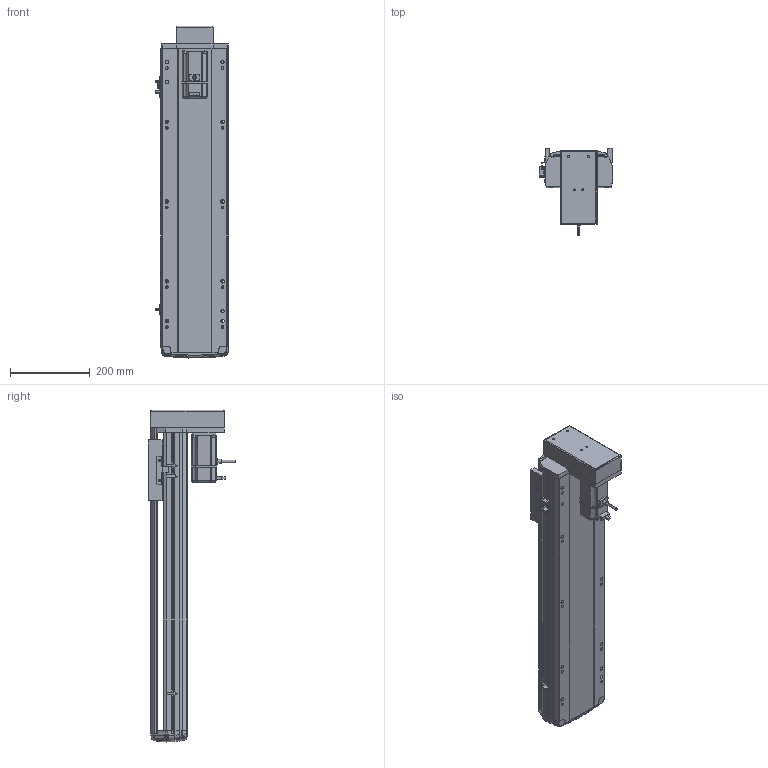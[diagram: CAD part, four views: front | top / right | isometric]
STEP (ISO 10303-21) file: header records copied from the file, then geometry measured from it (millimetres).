
FILE_DESCRIPTION (( 'STEP AP214' ), '1' );
FILE_NAME ('RTH17-XX-550-M-M40-C4.STEP', '2025-10-24T09:05:48', ( '' ), ( '' ), 'SwSTEP 2.0', 'SolidWorks 2018', '' );
FILE_SCHEMA (( 'AUTOMOTIVE_DESIGN' ));
Length unit declared in the file: millimetre
Products named in the file (10): N_RTH17-M-011底座^RTH17-XX-XX-M-M40-C4（方程式）; N_RTH17-GY-001P^RTH17-XX-XX-M-M40-C4（方程式）; N_RTH-BL-012 感应片(外置)^RTH17-XX-XX-M-M40-C4（方程式）; N_OMRON EE-SX672 換覜ん^RTH17-XX-XX-M-M40-C4ㄗ源最宒ㄘ; N_RTH17-E-004丝杆螺母连接座^RTH17-XX-XX-M-M40-C4（方程式）; RTH17-XX-550-M-M40-C4; N_RTH17-M-018盖子^RTH17-XX-XX-M-M40-C4（方程式）; N_RTH17-M-007上盖^RTH17-XX-XX-M-M40-C4（方程式）; N_M40^RTH17-XX-XX-M-M40-C4（方程式）; N_RTH17-M-008-P40电机安装板下折^RTH17-XX-XX-M-M40-C4（方程式）
Assembly tree (11 placements, depth 2):
  RTH17-XX-550-M-M40-C4
    N_RTH17-M-011底座^RTH17-XX-XX-M-M40-C4（方程式）
    N_RTH17-M-007上盖^RTH17-XX-XX-M-M40-C4（方程式）
    N_M40^RTH17-XX-XX-M-M40-C4（方程式）
    N_OMRON EE-SX672 換覜ん^RTH17-XX-XX-M-M40-C4ㄗ源最宒ㄘ  x3
    N_RTH-BL-012 感应片(外置)^RTH17-XX-XX-M-M40-C4（方程式）
    N_RTH17-M-008-P40电机安装板下折^RTH17-XX-XX-M-M40-C4（方程式）
    N_RTH17-M-018盖子^RTH17-XX-XX-M-M40-C4（方程式）
    N_RTH17-E-004丝杆螺母连接座^RTH17-XX-XX-M-M40-C4（方程式）
    N_RTH17-GY-001P^RTH17-XX-XX-M-M40-C4（方程式）
Bounding box: 183.5 x 219 x 833.19 mm (x, y, z)
Volume: 6758968.8 mm3; surface area: 1002456.5 mm2
Topology: 10 solids, 12 shells, 1647 faces, 4590 edges, 2992 vertices
Faces by surface type: plane 830, cylinder 450, bspline 330, cone 28, torus 9
Entity records: 47948 total; most frequent: CARTESIAN_POINT 19406, ORIENTED_EDGE 6204, DIRECTION 5110, EDGE_CURVE 3106, VERTEX_POINT 2028, VECTOR 1756, LINE 1756, AXIS2_PLACEMENT_3D 1677
